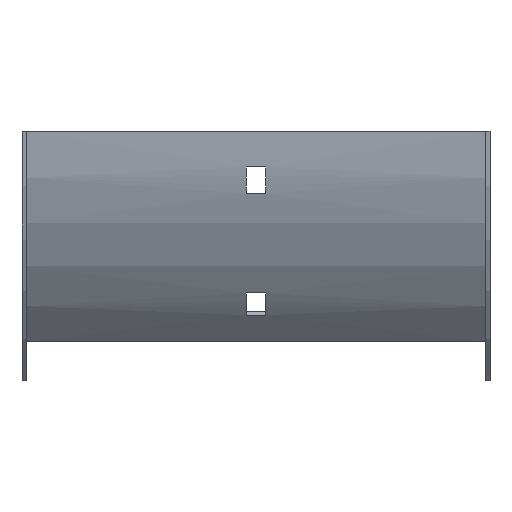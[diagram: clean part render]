
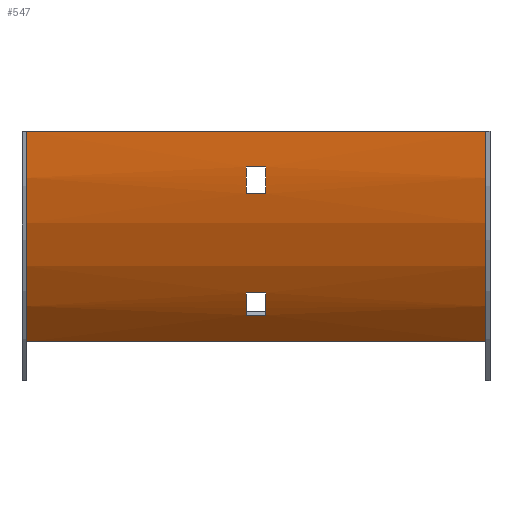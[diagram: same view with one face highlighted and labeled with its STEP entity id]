
A CAD part, front view. The second image highlights one B-rep face of the part: STEP entity #547.
In plain terms, the highlighted cylindrical face has radius 100 mm (diameter 200 mm), a partial arc.
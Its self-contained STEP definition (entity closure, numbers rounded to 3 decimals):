
#1 = LINE ( 'NONE', #606, #530 ) ;
#13 = ORIENTED_EDGE ( 'NONE', *, *, #488, .F. ) ;
#30 = ORIENTED_EDGE ( 'NONE', *, *, #152, .F. ) ;
#34 = DIRECTION ( 'NONE',  ( 0., 0., 1. ) ) ;
#39 = DIRECTION ( 'NONE',  ( -1., 0., 0. ) ) ;
#41 = DIRECTION ( 'NONE',  ( -1., 0., 0. ) ) ;
#43 = LINE ( 'NONE', #545, #66 ) ;
#44 = VECTOR ( 'NONE', #508, 1000. ) ;
#54 = EDGE_CURVE ( 'NONE', #590, #368, #271, .T. ) ;
#61 = ORIENTED_EDGE ( 'NONE', *, *, #54, .F. ) ;
#63 = VERTEX_POINT ( 'NONE', #324 ) ;
#66 = VECTOR ( 'NONE', #321, 1000. ) ;
#70 = ORIENTED_EDGE ( 'NONE', *, *, #133, .T. ) ;
#73 = DIRECTION ( 'NONE',  ( 0., 0., -1. ) ) ;
#82 = EDGE_CURVE ( 'NONE', #419, #252, #140, .T. ) ;
#83 = CARTESIAN_POINT ( 'NONE',  ( -3.25, -0.777, -12. ) ) ;
#92 = DIRECTION ( 'NONE',  ( 0., 0., -1. ) ) ;
#94 = CIRCLE ( 'NONE', #232, 100. ) ;
#108 = EDGE_CURVE ( 'NONE', #258, #607, #43, .T. ) ;
#115 = CARTESIAN_POINT ( 'NONE',  ( -3.25, 14.517, -54.285 ) ) ;
#117 = EDGE_CURVE ( 'NONE', #443, #590, #432, .T. ) ;
#119 = ORIENTED_EDGE ( 'NONE', *, *, #108, .F. ) ;
#133 = EDGE_CURVE ( 'NONE', #252, #63, #236, .T. ) ;
#138 = DIRECTION ( 'NONE',  ( 1., 0., 0. ) ) ;
#140 = CIRCLE ( 'NONE', #278, 100. ) ;
#150 = CYLINDRICAL_SURFACE ( 'NONE', #364, 100. ) ;
#152 = EDGE_CURVE ( 'NONE', #607, #305, #319, .T. ) ;
#153 = EDGE_CURVE ( 'NONE', #350, #305, #559, .T. ) ;
#155 = CARTESIAN_POINT ( 'NONE',  ( 3.25, 0.73, -21. ) ) ;
#159 = CARTESIAN_POINT ( 'NONE',  ( -77., 27.789, -70.711 ) ) ;
#163 = EDGE_CURVE ( 'NONE', #63, #469, #94, .T. ) ;
#169 = EDGE_LOOP ( 'NONE', ( #285, #13, #256, #61 ) ) ;
#180 = AXIS2_PLACEMENT_3D ( 'NONE', #255, #573, #354 ) ;
#183 = CARTESIAN_POINT ( 'NONE',  ( 78.5, 0.73, -21. ) ) ;
#190 = DIRECTION ( 'NONE',  ( -1., 0., 0. ) ) ;
#193 = DIRECTION ( 'NONE',  ( -1., 0., 0. ) ) ;
#221 = VERTEX_POINT ( 'NONE', #426 ) ;
#225 = CARTESIAN_POINT ( 'NONE',  ( 78.5, 14.517, -54.285 ) ) ;
#232 = AXIS2_PLACEMENT_3D ( 'NONE', #430, #379, #332 ) ;
#236 = LINE ( 'NONE', #225, #44 ) ;
#240 = CARTESIAN_POINT ( 'NONE',  ( 77., -1.5, 0. ) ) ;
#244 = ORIENTED_EDGE ( 'NONE', *, *, #82, .T. ) ;
#247 = DIRECTION ( 'NONE',  ( 0., 0., 1. ) ) ;
#252 = VERTEX_POINT ( 'NONE', #115 ) ;
#255 = CARTESIAN_POINT ( 'NONE',  ( 77., 98.5, 0. ) ) ;
#256 = ORIENTED_EDGE ( 'NONE', *, *, #287, .F. ) ;
#258 = VERTEX_POINT ( 'NONE', #575 ) ;
#264 = DIRECTION ( 'NONE',  ( -1., 0., 0. ) ) ;
#271 = LINE ( 'NONE', #183, #548 ) ;
#278 = AXIS2_PLACEMENT_3D ( 'NONE', #511, #39, #92 ) ;
#284 = DIRECTION ( 'NONE',  ( -1., 0., 0. ) ) ;
#285 = ORIENTED_EDGE ( 'NONE', *, *, #117, .F. ) ;
#287 = EDGE_CURVE ( 'NONE', #368, #221, #505, .T. ) ;
#288 = FACE_BOUND ( 'NONE', #473, .T. ) ;
#290 = LINE ( 'NONE', #414, #549 ) ;
#305 = VERTEX_POINT ( 'NONE', #351 ) ;
#306 = CARTESIAN_POINT ( 'NONE',  ( 3.25, 98.5, 0. ) ) ;
#319 = CIRCLE ( 'NONE', #357, 100. ) ;
#321 = DIRECTION ( 'NONE',  ( -1., 0., 0. ) ) ;
#324 = CARTESIAN_POINT ( 'NONE',  ( 3.25, 14.517, -54.285 ) ) ;
#332 = DIRECTION ( 'NONE',  ( 0., 0., 1. ) ) ;
#333 = ORIENTED_EDGE ( 'NONE', *, *, #509, .T. ) ;
#336 = AXIS2_PLACEMENT_3D ( 'NONE', #306, #264, #73 ) ;
#350 = VERTEX_POINT ( 'NONE', #494 ) ;
#351 = CARTESIAN_POINT ( 'NONE',  ( -77., -1.5, 0. ) ) ;
#354 = DIRECTION ( 'NONE',  ( 0., 0., 1. ) ) ;
#357 = AXIS2_PLACEMENT_3D ( 'NONE', #461, #41, #247 ) ;
#363 = AXIS2_PLACEMENT_3D ( 'NONE', #411, #138, #34 ) ;
#364 = AXIS2_PLACEMENT_3D ( 'NONE', #421, #193, #375 ) ;
#368 = VERTEX_POINT ( 'NONE', #155 ) ;
#375 = DIRECTION ( 'NONE',  ( 0., 0., 1. ) ) ;
#379 = DIRECTION ( 'NONE',  ( 1., 0., 0. ) ) ;
#380 = VECTOR ( 'NONE', #284, 1000. ) ;
#384 = EDGE_LOOP ( 'NONE', ( #30, #119, #555, #403 ) ) ;
#399 = CARTESIAN_POINT ( 'NONE',  ( -3.25, 0.73, -21. ) ) ;
#403 = ORIENTED_EDGE ( 'NONE', *, *, #153, .T. ) ;
#411 = CARTESIAN_POINT ( 'NONE',  ( -3.25, 98.5, 0. ) ) ;
#414 = CARTESIAN_POINT ( 'NONE',  ( 78.5, -0.777, -12. ) ) ;
#419 = VERTEX_POINT ( 'NONE', #603 ) ;
#421 = CARTESIAN_POINT ( 'NONE',  ( 78.5, 98.5, 0. ) ) ;
#426 = CARTESIAN_POINT ( 'NONE',  ( 3.25, -0.777, -12. ) ) ;
#430 = CARTESIAN_POINT ( 'NONE',  ( 3.25, 98.5, 0. ) ) ;
#432 = CIRCLE ( 'NONE', #363, 100. ) ;
#443 = VERTEX_POINT ( 'NONE', #83 ) ;
#446 = ORIENTED_EDGE ( 'NONE', *, *, #163, .T. ) ;
#461 = CARTESIAN_POINT ( 'NONE',  ( -77., 98.5, 0. ) ) ;
#468 = DIRECTION ( 'NONE',  ( -1., 0., 0. ) ) ;
#469 = VERTEX_POINT ( 'NONE', #589 ) ;
#473 = EDGE_LOOP ( 'NONE', ( #333, #244, #70, #446 ) ) ;
#488 = EDGE_CURVE ( 'NONE', #221, #443, #290, .T. ) ;
#494 = CARTESIAN_POINT ( 'NONE',  ( 77., -1.5, 0. ) ) ;
#505 = CIRCLE ( 'NONE', #336, 100. ) ;
#508 = DIRECTION ( 'NONE',  ( 1., 0., 0. ) ) ;
#509 = EDGE_CURVE ( 'NONE', #469, #419, #1, .T. ) ;
#511 = CARTESIAN_POINT ( 'NONE',  ( -3.25, 98.5, 0. ) ) ;
#516 = FACE_BOUND ( 'NONE', #169, .T. ) ;
#517 = FACE_OUTER_BOUND ( 'NONE', #384, .T. ) ;
#530 = VECTOR ( 'NONE', #190, 1000. ) ;
#545 = CARTESIAN_POINT ( 'NONE',  ( 77., 27.789, -70.711 ) ) ;
#547 = ADVANCED_FACE ( 'NONE', ( #516, #517, #288 ), #150, .T. ) ;
#548 = VECTOR ( 'NONE', #554, 1000. ) ;
#549 = VECTOR ( 'NONE', #468, 1000. ) ;
#554 = DIRECTION ( 'NONE',  ( 1., 0., 0. ) ) ;
#555 = ORIENTED_EDGE ( 'NONE', *, *, #588, .T. ) ;
#559 = LINE ( 'NONE', #240, #380 ) ;
#569 = CIRCLE ( 'NONE', #180, 100. ) ;
#573 = DIRECTION ( 'NONE',  ( -1., 0., 0. ) ) ;
#575 = CARTESIAN_POINT ( 'NONE',  ( 77., 27.789, -70.711 ) ) ;
#588 = EDGE_CURVE ( 'NONE', #258, #350, #569, .T. ) ;
#589 = CARTESIAN_POINT ( 'NONE',  ( 3.25, 19.815, -61.714 ) ) ;
#590 = VERTEX_POINT ( 'NONE', #399 ) ;
#603 = CARTESIAN_POINT ( 'NONE',  ( -3.25, 19.815, -61.714 ) ) ;
#606 = CARTESIAN_POINT ( 'NONE',  ( 78.5, 19.815, -61.714 ) ) ;
#607 = VERTEX_POINT ( 'NONE', #159 ) ;
